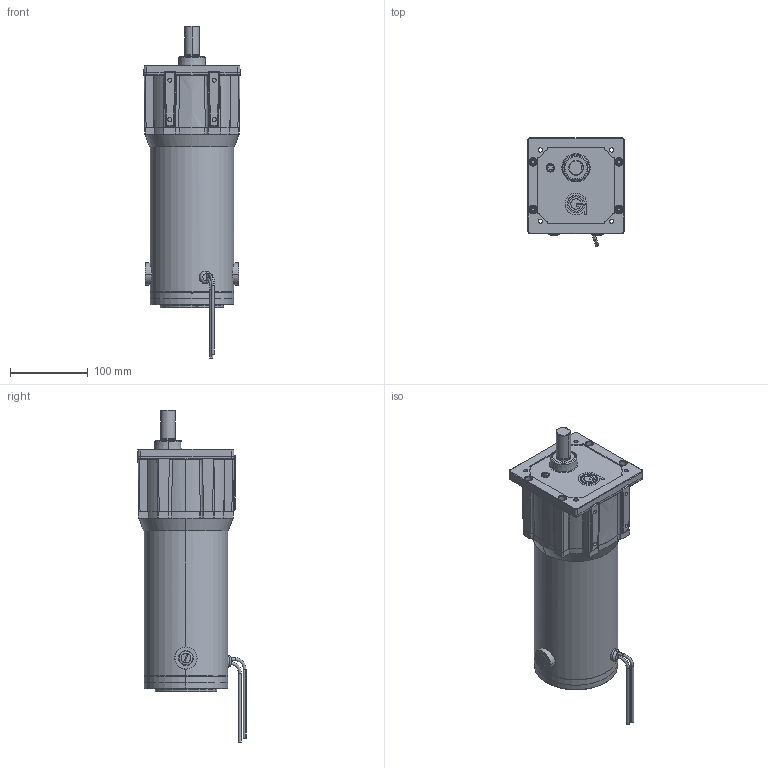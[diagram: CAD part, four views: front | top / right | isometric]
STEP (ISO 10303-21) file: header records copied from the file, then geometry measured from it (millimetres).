
FILE_DESCRIPTION (( 'STEP AP203' ), '1' );
FILE_NAME ('OUTLINE PM10818-PS2300.STEP', '2006-11-15T21:38:02', ( 'Groschopp' ), ( 'Groschopp' ), 'SwSTEP 2.0', 'SolidWorks 2007', '' );
FILE_SCHEMA (( 'CONFIG_CONTROL_DESIGN' ));
Length unit declared in the file: inch
Products named in the file (1): OUTLINE PM10818-PS2300
Bounding box: 124.01 x 139.67 x 428.22 mm (x, y, z)
Surface area: 183316.1 mm2 (no closed solid volume)
Topology: 0 solids, 24 shells, 614 faces, 1787 edges, 1157 vertices
Faces by surface type: cylinder 169, plane 152, bspline 116, cone 93, torus 80, sphere 4
Entity records: 24689 total; most frequent: CARTESIAN_POINT 9199, DIRECTION 3245, ORIENTED_EDGE 3136, EDGE_CURVE 1787, AXIS2_PLACEMENT_3D 1330, VERTEX_POINT 1157, CIRCLE 831, EDGE_LOOP 671
